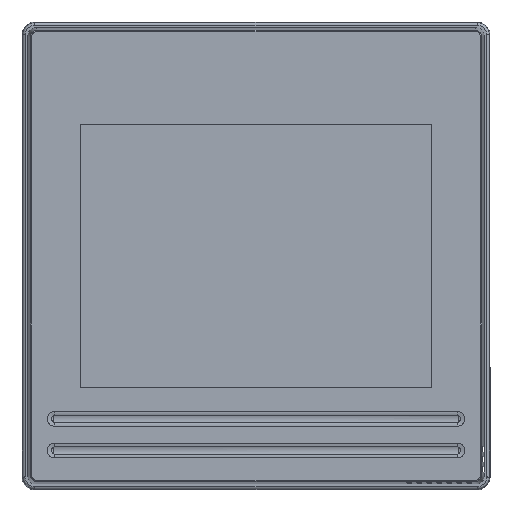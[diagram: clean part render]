
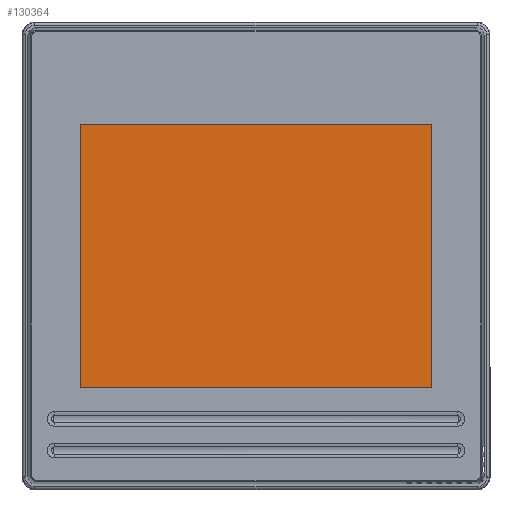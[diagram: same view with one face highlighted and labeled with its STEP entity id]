
A CAD part, top view. The second image highlights one B-rep face of the part: STEP entity #130364.
In plain terms, the highlighted planar face has unit normal (0, 0, 1).
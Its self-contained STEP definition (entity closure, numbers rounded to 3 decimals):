
#10025 = CARTESIAN_POINT ( 'NONE',  ( 3.41, 60.98, 4. ) ) ;
#12451 = ORIENTED_EDGE ( 'NONE', *, *, #22436, .T. ) ;
#13898 = AXIS2_PLACEMENT_3D ( 'NONE', #21305, #104029, #33223 ) ;
#21002 = ORIENTED_EDGE ( 'NONE', *, *, #115888, .T. ) ;
#21305 = CARTESIAN_POINT ( 'NONE',  ( 0., 0., 4. ) ) ;
#21896 = DIRECTION ( 'NONE',  ( -1., 0., 0. ) ) ;
#22436 = EDGE_CURVE ( 'NONE', #37246, #89635, #58832, .T. ) ;
#24955 = CARTESIAN_POINT ( 'NONE',  ( 3.41, 60.98, 4. ) ) ;
#30859 = LINE ( 'NONE', #56700, #152821 ) ;
#33223 = DIRECTION ( 'NONE',  ( 1., 0., 0. ) ) ;
#36895 = DIRECTION ( 'NONE',  ( 0., -1., 0. ) ) ;
#37246 = VERTEX_POINT ( 'NONE', #72711 ) ;
#40959 = CARTESIAN_POINT ( 'NONE',  ( 3.41, 60.98, 4. ) ) ;
#44083 = VECTOR ( 'NONE', #36895, 1000. ) ;
#47830 = LINE ( 'NONE', #24955, #44083 ) ;
#50936 = ORIENTED_EDGE ( 'NONE', *, *, #66635, .T. ) ;
#55123 = VECTOR ( 'NONE', #88088, 1000. ) ;
#56700 = CARTESIAN_POINT ( 'NONE',  ( 3.41, 8.42, 4. ) ) ;
#58832 = LINE ( 'NONE', #146996, #55123 ) ;
#61149 = LINE ( 'NONE', #10025, #120253 ) ;
#66635 = EDGE_CURVE ( 'NONE', #89635, #147866, #61149, .T. ) ;
#72711 = CARTESIAN_POINT ( 'NONE',  ( 73.49, 8.42, 4. ) ) ;
#77719 = EDGE_LOOP ( 'NONE', ( #129545, #21002, #12451, #50936 ) ) ;
#80466 = DIRECTION ( 'NONE',  ( 1., 0., 0. ) ) ;
#88088 = DIRECTION ( 'NONE',  ( 0., 1., 0. ) ) ;
#89635 = VERTEX_POINT ( 'NONE', #109698 ) ;
#101758 = VERTEX_POINT ( 'NONE', #118132 ) ;
#104029 = DIRECTION ( 'NONE',  ( 0., 0., 1. ) ) ;
#109698 = CARTESIAN_POINT ( 'NONE',  ( 73.49, 60.98, 4. ) ) ;
#114872 = PLANE ( 'NONE',  #13898 ) ;
#115888 = EDGE_CURVE ( 'NONE', #101758, #37246, #30859, .T. ) ;
#118132 = CARTESIAN_POINT ( 'NONE',  ( 3.41, 8.42, 4. ) ) ;
#118508 = FACE_OUTER_BOUND ( 'NONE', #77719, .T. ) ;
#118616 = EDGE_CURVE ( 'NONE', #147866, #101758, #47830, .T. ) ;
#120253 = VECTOR ( 'NONE', #21896, 1000. ) ;
#129545 = ORIENTED_EDGE ( 'NONE', *, *, #118616, .T. ) ;
#130364 = ADVANCED_FACE ( 'NONE', ( #118508 ), #114872, .T. ) ;
#146996 = CARTESIAN_POINT ( 'NONE',  ( 73.49, 60.98, 4. ) ) ;
#147866 = VERTEX_POINT ( 'NONE', #40959 ) ;
#152821 = VECTOR ( 'NONE', #80466, 1000. ) ;
